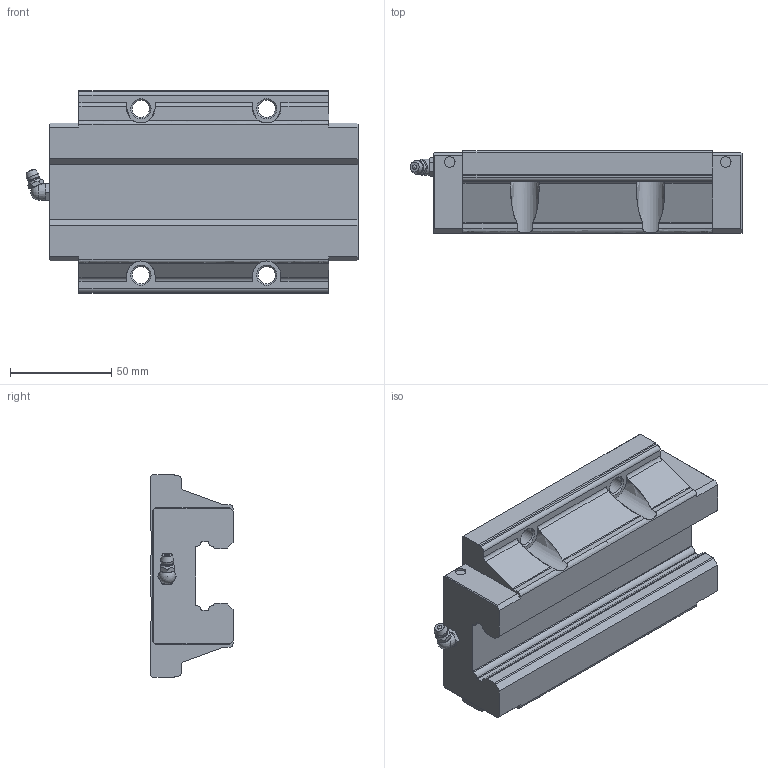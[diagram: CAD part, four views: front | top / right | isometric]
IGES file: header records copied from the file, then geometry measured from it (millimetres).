
Start section: Data from Parasolid IGES Translator 26.0.171, Copyright(c) 2006 Siemens PLM Software. All Rights Reserved.
Global section: file name: SHS35LC1SS(GK) BLOCK(B-M6F1).igs; native system: By Siemens PLM Incorporated; preprocessor: XPlus GENERIC/IGES 26.0.171; author: Noname; organization: Noname; date: 20240514.043627; units: millimetre
Bounding box: 163.6 x 40.5 x 100 mm (x, y, z)
Surface area: 53077.3 mm2 (no closed solid volume)
Topology: 0 solids, 0 shells, 179 faces, 1008 edges, 989 vertices
Faces by surface type: extrusion 98, revolution 81
